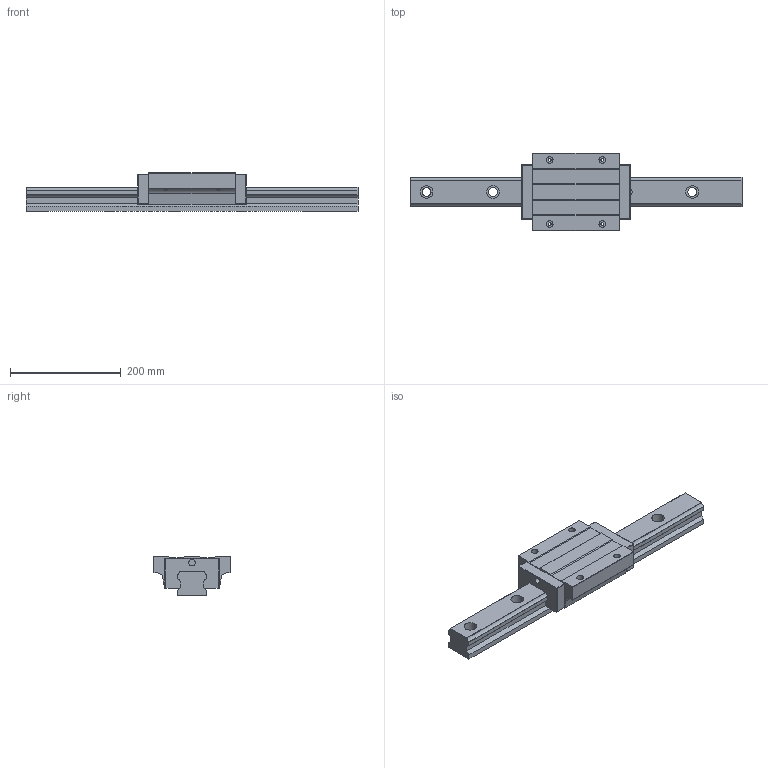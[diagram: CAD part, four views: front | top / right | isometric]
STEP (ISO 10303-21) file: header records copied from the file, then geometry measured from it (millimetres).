
FILE_DESCRIPTION (( 'STEP AP203' ), '1' );
FILE_NAME ('TRH55FE-XNC.STEP', '2024-08-16T06:01:51', ( '' ), ( '' ), 'SwSTEP 2.0', 'SolidWorks 2021', '' );
FILE_SCHEMA (( 'CONFIG_CONTROL_DESIGN' ));
Length unit declared in the file: millimetre
Products named in the file (1): TRH55FE-XNC
Bounding box: 600 x 140 x 70 mm (x, y, z)
Volume: 2111938.2 mm3; surface area: 230281.3 mm2
Topology: 1 solids, 1 shells, 174 faces, 482 edges, 314 vertices
Faces by surface type: cylinder 88, plane 82, sphere 4
Entity records: 6074 total; most frequent: CARTESIAN_POINT 1398, DIRECTION 980, ORIENTED_EDGE 956, EDGE_CURVE 478, AXIS2_PLACEMENT_3D 341, VERTEX_POINT 314, VECTOR 298, LINE 298
